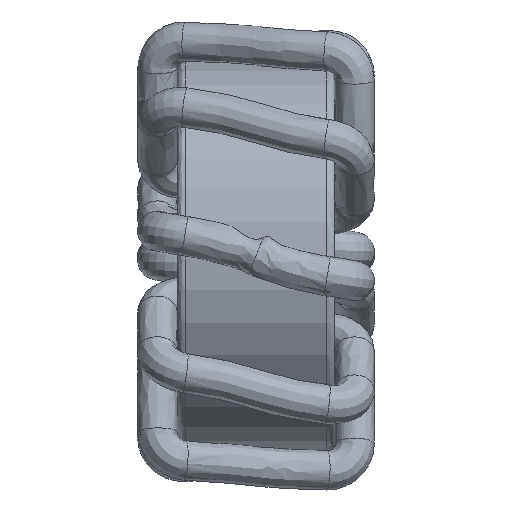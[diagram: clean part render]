
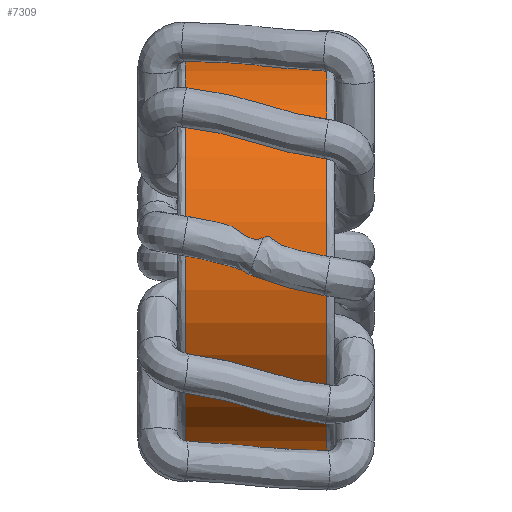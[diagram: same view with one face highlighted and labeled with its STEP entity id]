
A CAD part, left-side view. The second image highlights one B-rep face of the part: STEP entity #7309.
In plain terms, the highlighted cylindrical face has radius 6.35 mm (diameter 12.7 mm), a full revolution.
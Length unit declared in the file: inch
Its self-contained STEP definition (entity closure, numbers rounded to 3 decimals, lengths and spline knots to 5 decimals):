
#19 = CARTESIAN_POINT ( 'NONE',  ( 0., 0.09, -0.25 ) ) ;
#857 = CYLINDRICAL_SURFACE ( 'NONE', #6460, 0.25 ) ;
#1508 = FACE_OUTER_BOUND ( 'NONE', #6557, .T. ) ;
#1513 = VERTEX_POINT ( 'NONE', #6131 ) ;
#1828 = DIRECTION ( 'NONE',  ( 0., -1., 0. ) ) ;
#1857 = ORIENTED_EDGE ( 'NONE', *, *, #4677, .T. ) ;
#2329 = FACE_OUTER_BOUND ( 'NONE', #5279, .T. ) ;
#3009 = AXIS2_PLACEMENT_3D ( 'NONE', #5029, #6341, #6248 ) ;
#3291 = CIRCLE ( 'NONE', #3009, 0.25 ) ;
#3735 = CARTESIAN_POINT ( 'NONE',  ( 0., 0.1, 0. ) ) ;
#4388 = DIRECTION ( 'NONE',  ( 0., 0., -1. ) ) ;
#4517 = VERTEX_POINT ( 'NONE', #19 ) ;
#4677 = EDGE_CURVE ( 'NONE', #4517, #4517, #6472, .T. ) ;
#5029 = CARTESIAN_POINT ( 'NONE',  ( 0., -0.09, 0. ) ) ;
#5279 = EDGE_LOOP ( 'NONE', ( #1857 ) ) ;
#6131 = CARTESIAN_POINT ( 'NONE',  ( 0., -0.09, -0.25 ) ) ;
#6248 = DIRECTION ( 'NONE',  ( 0., 0., -1. ) ) ;
#6341 = DIRECTION ( 'NONE',  ( 0., 1., 0. ) ) ;
#6460 = AXIS2_PLACEMENT_3D ( 'NONE', #3735, #1828, #4388 ) ;
#6472 = CIRCLE ( 'NONE', #6632, 0.25 ) ;
#6532 = DIRECTION ( 'NONE',  ( 0., -1., 0. ) ) ;
#6557 = EDGE_LOOP ( 'NONE', ( #6852 ) ) ;
#6632 = AXIS2_PLACEMENT_3D ( 'NONE', #8530, #6532, #7247 ) ;
#6852 = ORIENTED_EDGE ( 'NONE', *, *, #8590, .T. ) ;
#7247 = DIRECTION ( 'NONE',  ( 0., 0., -1. ) ) ;
#7309 = ADVANCED_FACE ( 'NONE', ( #2329, #1508 ), #857, .T. ) ;
#8530 = CARTESIAN_POINT ( 'NONE',  ( 0., 0.09, 0. ) ) ;
#8590 = EDGE_CURVE ( 'NONE', #1513, #1513, #3291, .T. ) ;
